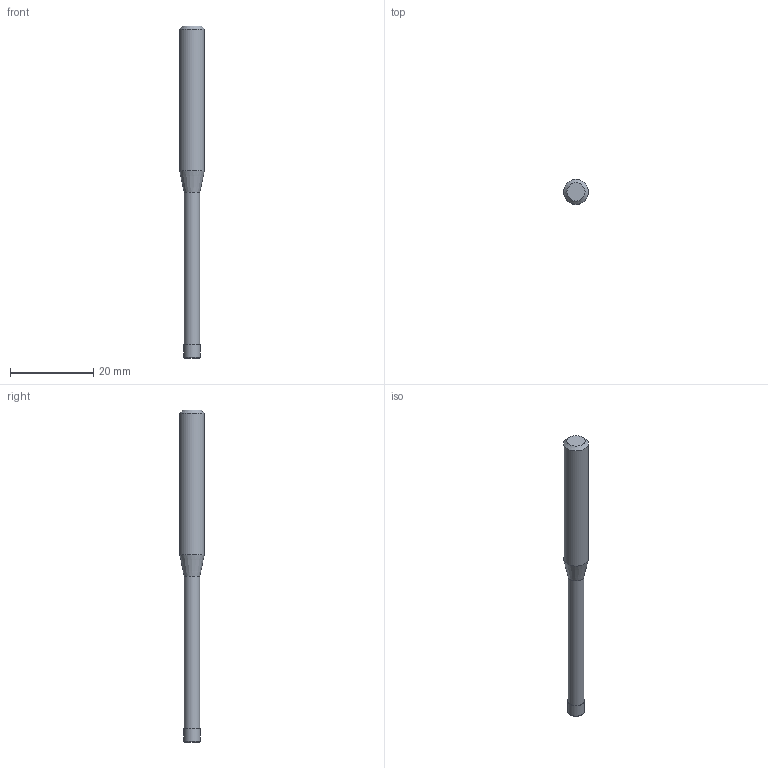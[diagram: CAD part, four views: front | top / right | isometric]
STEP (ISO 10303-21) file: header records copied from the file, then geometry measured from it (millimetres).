
FILE_DESCRIPTION((''),'2;1');
FILE_NAME('C:\Users\nsx150\AppData\Local\Temp\Mastercam 2021\CSMVKW3037\TEMP.step','2023-06-23T16:04:31',(''),(''),'STEP Write','Mastercam 2021 ... CNC Software, Inc.','');
FILE_SCHEMA(('AUTOMOTIVE_DESIGN'));
Length unit declared in the file: millimetre
Products named in the file (1): None
Bounding box: 6 x 6 x 80 mm (x, y, z)
Volume: 1535.8 mm3; surface area: 1271.4 mm2
Topology: 2 solids, 2 shells, 10 faces, 14 edges, 8 vertices
Faces by surface type: plane 4, cylinder 3, cone 2, torus 1
Full cylindrical faces by diameter (mm): 3.8 x1, 4 x1, 6 x1
Entity records: 232 total; most frequent: DIRECTION 40, CARTESIAN_POINT 28, AXIS2_PLACEMENT_3D 20, ORIENTED_EDGE 16, EDGE_LOOP 16, STYLED_ITEM 13, ADVANCED_FACE 10, FACE_BOUND 10
